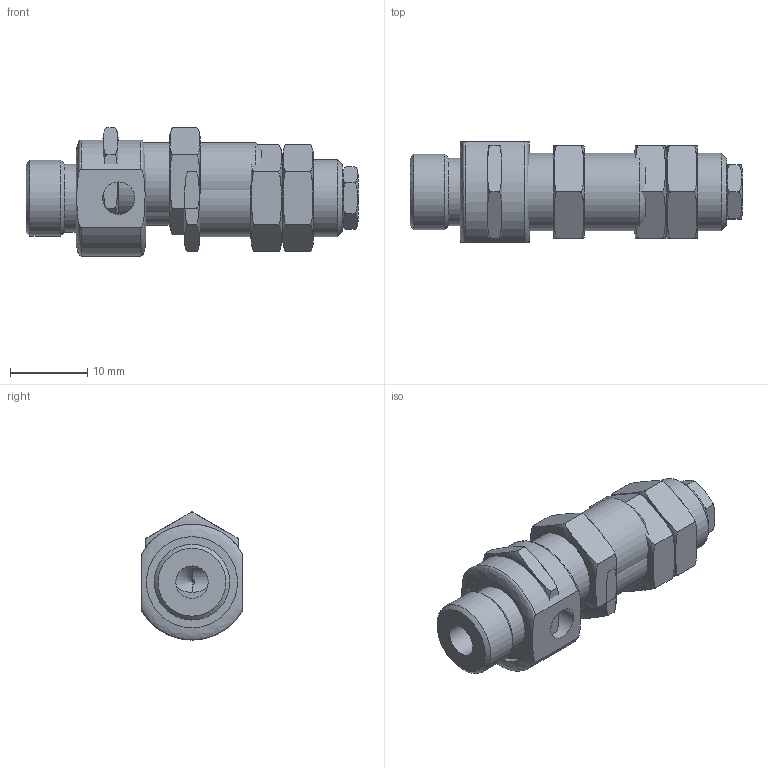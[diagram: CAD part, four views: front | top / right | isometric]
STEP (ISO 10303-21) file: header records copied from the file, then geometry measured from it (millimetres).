
FILE_DESCRIPTION( ( 'Unknown' ), '1' );
FILE_NAME( 'C:/Documents and Settings/Owner/官帕 拳搁/LEVEL SPRING HOMEPAGE/L18 Series/L1805M/L1805M.stp', 'Unknown', ( 'Unknown' ), ( 'Unknown' ), 'PSStep 10.0', 'Unknown', ' ' );
FILE_SCHEMA( ( 'AUTOMOTIVE_DESIGN { 1 0 10303 214 1 1 1 1 }' ) );
Length unit declared in the file: millimetre
Products named in the file (5): Assem1; sha; hou; end cap; NUT(M10XP1)
Bounding box: 43 x 13 x 16.61 mm (x, y, z)
Surface area: 7534 mm2 (no closed solid volume)
Topology: 0 solids, 157 shells, 157 faces, 583 edges, 512 vertices
Faces by surface type: plane 82, cylinder 37, revolution 18, cone 16, torus 4
Full cylindrical faces by diameter (mm): 2.137 x2, 2.85 x4, 3.5 x4, 4.2 x4, 5 x4, 7 x4, 8.8 x2, 9.8 x2, 10 x5, 11.8 x2
Entity records: 5094 total; most frequent: CARTESIAN_POINT 2493, DIRECTION 398, ORIENTED_EDGE 230, EDGE_CURVE 230, VERTEX_POINT 230, AXIS2_PLACEMENT_3D 171, FACE_BOUND 119, EDGE_LOOP 119
